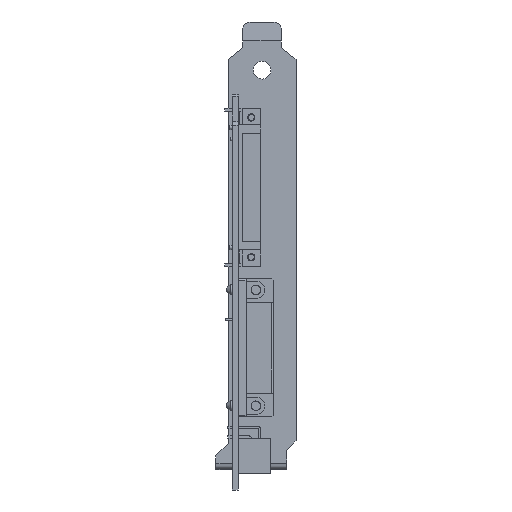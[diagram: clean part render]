
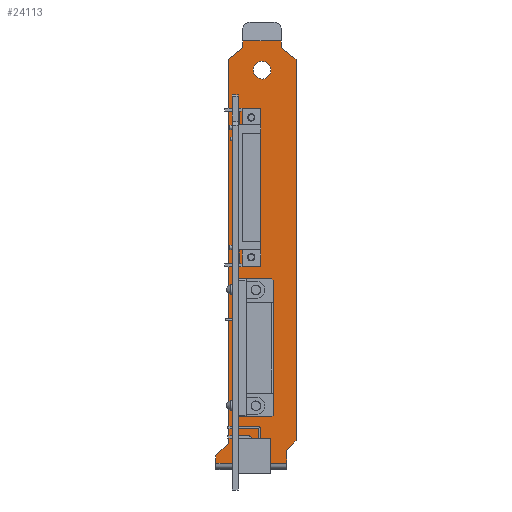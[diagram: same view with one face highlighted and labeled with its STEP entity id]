
A CAD part, front view. The second image highlights one B-rep face of the part: STEP entity #24113.
In plain terms, the highlighted planar face has unit normal (0, -1, 0).
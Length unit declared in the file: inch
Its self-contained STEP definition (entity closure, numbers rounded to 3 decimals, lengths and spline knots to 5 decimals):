
#6665=DIRECTION('',(1.,0.,0.));
#6666=VECTOR('',#6665,0.412);
#6667=CARTESIAN_POINT('',(0.108,0.33,0.764));
#6668=LINE('',#6667,#6666);
#6669=DIRECTION('',(0.,0.,-1.));
#6670=VECTOR('',#6669,0.074);
#6671=CARTESIAN_POINT('',(0.52,0.33,0.764));
#6672=LINE('',#6671,#6670);
#6673=DIRECTION('',(-0.788,0.,0.616));
#6674=VECTOR('',#6673,0.1967);
#6675=CARTESIAN_POINT('',(0.675,0.33,0.5689));
#6676=LINE('',#6675,#6674);
#6677=DIRECTION('',(0.707,0.,0.707));
#6678=VECTOR('',#6677,0.14142);
#6679=CARTESIAN_POINT('',(0.575,0.33,-3.583));
#6680=LINE('',#6679,#6678);
#6681=DIRECTION('',(0.,0.,1.));
#6682=VECTOR('',#6681,0.137);
#6683=CARTESIAN_POINT('',(0.575,0.33,-3.72));
#6684=LINE('',#6683,#6682);
#6685=DIRECTION('',(-1.,0.,0.));
#6686=VECTOR('',#6685,0.75);
#6687=CARTESIAN_POINT('',(0.575,0.33,-3.72));
#6688=LINE('',#6687,#6686);
#6689=DIRECTION('',(-0.707,0.,-0.707));
#6690=VECTOR('',#6689,0.18102);
#6691=CARTESIAN_POINT('',(-0.047,0.33,-3.514));
#6692=LINE('',#6691,#6690);
#6693=DIRECTION('',(0.,0.,-1.));
#6694=VECTOR('',#6693,4.0829);
#6695=CARTESIAN_POINT('',(-0.047,0.33,0.5689));
#6696=LINE('',#6695,#6694);
#6697=DIRECTION('',(-0.788,0.,-0.616));
#6698=VECTOR('',#6697,0.1967);
#6699=CARTESIAN_POINT('',(0.108,0.33,0.69));
#6700=LINE('',#6699,#6698);
#6701=DIRECTION('',(0.,0.,-1.));
#6702=VECTOR('',#6701,0.074);
#6703=CARTESIAN_POINT('',(0.108,0.33,0.764));
#6704=LINE('',#6703,#6702);
#6705=CARTESIAN_POINT('',(0.314,0.33,0.453));
#6706=DIRECTION('',(0.,1.,0.));
#6707=DIRECTION('',(0.,0.,1.));
#6708=AXIS2_PLACEMENT_3D('',#6705,#6706,#6707);
#6710=CARTESIAN_POINT('',(0.314,0.33,0.453));
#6711=DIRECTION('',(0.,1.,0.));
#6712=DIRECTION('',(0.,0.,-1.));
#6713=AXIS2_PLACEMENT_3D('',#6710,#6711,#6712);
#6715=DIRECTION('',(-1.,0.,0.));
#6716=VECTOR('',#6715,0.35236);
#6717=CARTESIAN_POINT('',(0.41436,0.33,-3.228));
#6718=LINE('',#6717,#6716);
#6719=DIRECTION('',(-0.707,0.,-0.707));
#6720=VECTOR('',#6719,0.02784);
#6721=CARTESIAN_POINT('',(0.43405,0.33,-3.20831));
#6722=LINE('',#6721,#6720);
#6723=DIRECTION('',(0.,0.,-1.));
#6724=VECTOR('',#6723,1.42756);
#6725=CARTESIAN_POINT('',(0.43405,0.33,-1.78076));
#6726=LINE('',#6725,#6724);
#6727=DIRECTION('',(-0.707,0.,0.707));
#6728=VECTOR('',#6727,0.02784);
#6729=CARTESIAN_POINT('',(0.43405,0.33,-1.78076));
#6730=LINE('',#6729,#6728);
#6731=DIRECTION('',(1.,0.,0.));
#6732=VECTOR('',#6731,0.35236);
#6733=CARTESIAN_POINT('',(0.062,0.33,-1.76107));
#6734=LINE('',#6733,#6732);
#6735=DIRECTION('',(0.,0.,1.));
#6736=VECTOR('',#6735,1.46693);
#6737=CARTESIAN_POINT('',(0.062,0.33,-3.228));
#6738=LINE('',#6737,#6736);
#6739=DIRECTION('',(0.,0.,1.));
#6740=VECTOR('',#6739,1.32677);
#6741=CARTESIAN_POINT('',(0.062,0.33,-1.45391));
#6742=LINE('',#6741,#6740);
#6743=DIRECTION('',(1.,0.,0.));
#6744=VECTOR('',#6743,0.03937);
#6745=CARTESIAN_POINT('',(0.062,0.33,-1.45391));
#6746=LINE('',#6745,#6744);
#6747=DIRECTION('',(0.,0.,-1.));
#6748=VECTOR('',#6747,0.17717);
#6749=CARTESIAN_POINT('',(0.10137,0.33,-1.45391));
#6750=LINE('',#6749,#6748);
#6751=DIRECTION('',(1.,0.,0.));
#6752=VECTOR('',#6751,0.19685);
#6753=CARTESIAN_POINT('',(0.10137,0.33,-1.63107));
#6754=LINE('',#6753,#6752);
#6755=DIRECTION('',(0.,0.,1.));
#6756=VECTOR('',#6755,1.6811);
#6757=CARTESIAN_POINT('',(0.29822,0.33,-1.63107));
#6758=LINE('',#6757,#6756);
#6759=DIRECTION('',(1.,0.,0.));
#6760=VECTOR('',#6759,0.19685);
#6761=CARTESIAN_POINT('',(0.10137,0.33,0.05003));
#6762=LINE('',#6761,#6760);
#6763=DIRECTION('',(0.,0.,1.));
#6764=VECTOR('',#6763,0.17717);
#6765=CARTESIAN_POINT('',(0.10137,0.33,-0.12713));
#6766=LINE('',#6765,#6764);
#6767=DIRECTION('',(1.,0.,0.));
#6768=VECTOR('',#6767,0.03937);
#6769=CARTESIAN_POINT('',(0.062,0.33,-0.12713));
#6770=LINE('',#6769,#6768);
#6817=DIRECTION('',(0.,0.,1.));
#6818=VECTOR('',#6817,0.078);
#6819=CARTESIAN_POINT('',(-0.175,0.33,-3.72));
#6820=LINE('',#6819,#6818);
#7169=DIRECTION('',(0.,0.,1.));
#7170=VECTOR('',#7169,4.0519);
#7171=CARTESIAN_POINT('',(0.675,0.33,-3.483));
#7172=LINE('',#7171,#7170);
#13962=CARTESIAN_POINT('',(-0.175,0.33,-3.72));
#13964=VERTEX_POINT('',#13962);
#13965=CARTESIAN_POINT('',(0.575,0.33,-3.72));
#13967=VERTEX_POINT('',#13965);
#13969=CARTESIAN_POINT('',(0.575,0.33,-3.583));
#13970=VERTEX_POINT('',#13969);
#13971=CARTESIAN_POINT('',(0.675,0.33,-3.483));
#13972=VERTEX_POINT('',#13971);
#13973=CARTESIAN_POINT('',(0.108,0.33,0.69));
#13974=CARTESIAN_POINT('',(-0.047,0.33,0.5689));
#13975=VERTEX_POINT('',#13973);
#13976=VERTEX_POINT('',#13974);
#13977=CARTESIAN_POINT('',(-0.047,0.33,-3.514));
#13978=VERTEX_POINT('',#13977);
#13979=CARTESIAN_POINT('',(-0.175,0.33,-3.642));
#13980=VERTEX_POINT('',#13979);
#13981=CARTESIAN_POINT('',(0.675,0.33,0.5689));
#13982=CARTESIAN_POINT('',(0.52,0.33,0.69));
#13983=VERTEX_POINT('',#13981);
#13984=VERTEX_POINT('',#13982);
#14093=CARTESIAN_POINT('',(0.314,0.33,0.5465));
#14094=CARTESIAN_POINT('',(0.314,0.33,0.3595));
#14095=VERTEX_POINT('',#14093);
#14096=VERTEX_POINT('',#14094);
#14097=CARTESIAN_POINT('',(0.108,0.33,0.764));
#14098=VERTEX_POINT('',#14097);
#14099=CARTESIAN_POINT('',(0.52,0.33,0.764));
#14100=VERTEX_POINT('',#14099);
#14474=CARTESIAN_POINT('',(0.41436,0.33,-3.228));
#14475=CARTESIAN_POINT('',(0.062,0.33,-3.228));
#14476=VERTEX_POINT('',#14474);
#14477=VERTEX_POINT('',#14475);
#14478=CARTESIAN_POINT('',(0.062,0.33,-1.76107));
#14479=VERTEX_POINT('',#14478);
#14480=CARTESIAN_POINT('',(0.41436,0.33,-1.76107));
#14481=VERTEX_POINT('',#14480);
#14482=CARTESIAN_POINT('',(0.43405,0.33,-1.78076));
#14483=CARTESIAN_POINT('',(0.43405,0.33,-3.20831));
#14484=VERTEX_POINT('',#14482);
#14485=VERTEX_POINT('',#14483);
#14986=CARTESIAN_POINT('',(0.062,0.33,-1.45391));
#14987=CARTESIAN_POINT('',(0.062,0.33,-0.12713));
#14988=VERTEX_POINT('',#14986);
#14989=VERTEX_POINT('',#14987);
#14990=CARTESIAN_POINT('',(0.29822,0.33,-1.63107));
#14991=CARTESIAN_POINT('',(0.29822,0.33,0.05003));
#14992=VERTEX_POINT('',#14990);
#14993=VERTEX_POINT('',#14991);
#14994=CARTESIAN_POINT('',(0.10137,0.33,0.05003));
#14995=VERTEX_POINT('',#14994);
#14996=CARTESIAN_POINT('',(0.10137,0.33,-0.12713));
#14997=VERTEX_POINT('',#14996);
#14998=CARTESIAN_POINT('',(0.10137,0.33,-1.45391));
#14999=VERTEX_POINT('',#14998);
#15000=CARTESIAN_POINT('',(0.10137,0.33,-1.63107));
#15001=VERTEX_POINT('',#15000);
#24049=CARTESIAN_POINT('',(0.675,0.33,-3.72));
#24050=DIRECTION('',(0.,1.,0.));
#24051=DIRECTION('',(0.,0.,1.));
#24052=AXIS2_PLACEMENT_3D('',#24049,#24050,#24051);
#24053=PLANE('',#24052);
#24055=ORIENTED_EDGE('',*,*,#24054,.T.);
#24057=ORIENTED_EDGE('',*,*,#24056,.T.);
#24059=ORIENTED_EDGE('',*,*,#24058,.F.);
#24061=ORIENTED_EDGE('',*,*,#24060,.F.);
#24063=ORIENTED_EDGE('',*,*,#24062,.F.);
#24065=ORIENTED_EDGE('',*,*,#24064,.F.);
#24067=ORIENTED_EDGE('',*,*,#24066,.T.);
#24069=ORIENTED_EDGE('',*,*,#24068,.T.);
#24071=ORIENTED_EDGE('',*,*,#24070,.F.);
#24073=ORIENTED_EDGE('',*,*,#24072,.F.);
#24075=ORIENTED_EDGE('',*,*,#24074,.F.);
#24077=ORIENTED_EDGE('',*,*,#24076,.F.);
#24078=EDGE_LOOP('',(#24055,#24057,#24059,#24061,#24063,#24065,#24067,#24069,
#24071,#24073,#24075,#24077));
#24079=FACE_OUTER_BOUND('',#24078,.F.);
#24081=ORIENTED_EDGE('',*,*,#24080,.F.);
#24083=ORIENTED_EDGE('',*,*,#24082,.F.);
#24084=EDGE_LOOP('',(#24081,#24083));
#24085=FACE_BOUND('',#24084,.F.);
#24086=ORIENTED_EDGE('',*,*,#23982,.F.);
#24088=ORIENTED_EDGE('',*,*,#24087,.F.);
#24090=ORIENTED_EDGE('',*,*,#24089,.F.);
#24092=ORIENTED_EDGE('',*,*,#24091,.T.);
#24093=ORIENTED_EDGE('',*,*,#24037,.F.);
#24094=ORIENTED_EDGE('',*,*,#23961,.F.);
#24095=EDGE_LOOP('',(#24086,#24088,#24090,#24092,#24093,#24094));
#24096=FACE_BOUND('',#24095,.F.);
#24097=ORIENTED_EDGE('',*,*,#16390,.F.);
#24099=ORIENTED_EDGE('',*,*,#24098,.T.);
#24101=ORIENTED_EDGE('',*,*,#24100,.T.);
#24103=ORIENTED_EDGE('',*,*,#24102,.T.);
#24105=ORIENTED_EDGE('',*,*,#24104,.T.);
#24107=ORIENTED_EDGE('',*,*,#24106,.F.);
#24109=ORIENTED_EDGE('',*,*,#24108,.F.);
#24110=ORIENTED_EDGE('',*,*,#16353,.F.);
#24111=EDGE_LOOP('',(#24097,#24099,#24101,#24103,#24105,#24107,#24109,#24110));
#24112=FACE_BOUND('',#24111,.F.);
#24113=ADVANCED_FACE('',(#24079,#24085,#24096,#24112),#24053,.F.);
#6709=CIRCLE('',#6708,0.0935);
#6714=CIRCLE('',#6713,0.0935);
#16353=EDGE_CURVE('',#14989,#14997,#6770,.T.);
#16390=EDGE_CURVE('',#14988,#14989,#6742,.T.);
#23961=EDGE_CURVE('',#14477,#14479,#6738,.T.);
#23982=EDGE_CURVE('',#14476,#14477,#6718,.T.);
#24037=EDGE_CURVE('',#14479,#14481,#6734,.T.);
#24054=EDGE_CURVE('',#14098,#14100,#6668,.T.);
#24056=EDGE_CURVE('',#14100,#13984,#6672,.T.);
#24058=EDGE_CURVE('',#13983,#13984,#6676,.T.);
#24060=EDGE_CURVE('',#13972,#13983,#7172,.T.);
#24062=EDGE_CURVE('',#13970,#13972,#6680,.T.);
#24064=EDGE_CURVE('',#13967,#13970,#6684,.T.);
#24066=EDGE_CURVE('',#13967,#13964,#6688,.T.);
#24068=EDGE_CURVE('',#13964,#13980,#6820,.T.);
#24070=EDGE_CURVE('',#13978,#13980,#6692,.T.);
#24072=EDGE_CURVE('',#13976,#13978,#6696,.T.);
#24074=EDGE_CURVE('',#13975,#13976,#6700,.T.);
#24076=EDGE_CURVE('',#14098,#13975,#6704,.T.);
#24080=EDGE_CURVE('',#14095,#14096,#6709,.T.);
#24082=EDGE_CURVE('',#14096,#14095,#6714,.T.);
#24087=EDGE_CURVE('',#14485,#14476,#6722,.T.);
#24089=EDGE_CURVE('',#14484,#14485,#6726,.T.);
#24091=EDGE_CURVE('',#14484,#14481,#6730,.T.);
#24098=EDGE_CURVE('',#14988,#14999,#6746,.T.);
#24100=EDGE_CURVE('',#14999,#15001,#6750,.T.);
#24102=EDGE_CURVE('',#15001,#14992,#6754,.T.);
#24104=EDGE_CURVE('',#14992,#14993,#6758,.T.);
#24106=EDGE_CURVE('',#14995,#14993,#6762,.T.);
#24108=EDGE_CURVE('',#14997,#14995,#6766,.T.);
